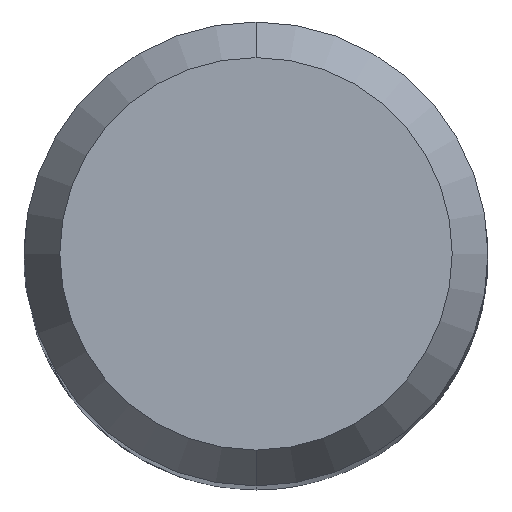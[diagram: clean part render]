
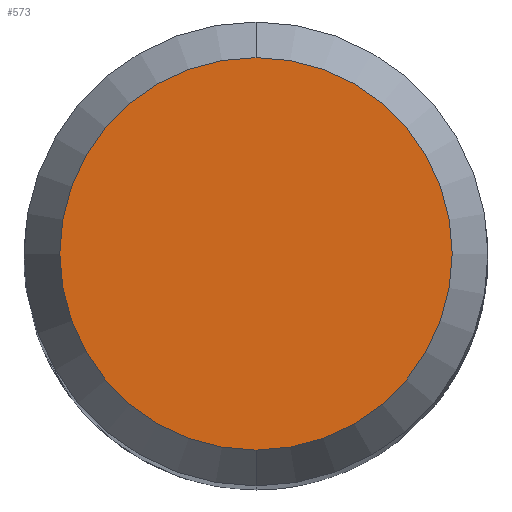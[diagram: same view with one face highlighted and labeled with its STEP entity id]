
A CAD part, top view. The second image highlights one B-rep face of the part: STEP entity #573.
In plain terms, the highlighted planar face has unit normal (0, 0, 1).
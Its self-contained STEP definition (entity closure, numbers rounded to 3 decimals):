
#573=ADVANCED_FACE('',(#1560),#1561,.T.);
#837=EDGE_CURVE('',#883,#1183,#1850,.T.);
#883=VERTEX_POINT('',#1900);
#1183=VERTEX_POINT('',#2222);
#1271=EDGE_CURVE('',#1183,#883,#2320,.T.);
#1560=FACE_OUTER_BOUND('',#2690,.T.);
#1561=PLANE('',#2691);
#1850=CIRCLE('',#4114,2.538);
#1900=CARTESIAN_POINT('',(0.0,2.538,0.0));
#2222=CARTESIAN_POINT('',(0.,-2.538,0.0));
#2320=CIRCLE('',#6191,2.538);
#2690=EDGE_LOOP('',(#7112,#7113));
#2691=AXIS2_PLACEMENT_3D('',#7114,#7115,#7116);
#4114=AXIS2_PLACEMENT_3D('',#7458,#7459,#7460);
#6191=AXIS2_PLACEMENT_3D('',#7981,#7982,#7983);
#7112=ORIENTED_EDGE('',*,*,#837,.F.);
#7113=ORIENTED_EDGE('',*,*,#1271,.F.);
#7114=CARTESIAN_POINT('',(0.0,1.269,0.0));
#7115=DIRECTION('',(-0.0,0.0,1.0));
#7116=DIRECTION('',(0.0,-1.0,0.0));
#7458=CARTESIAN_POINT('',(0.0,0.0,0.0));
#7459=DIRECTION('',(0.0,0.0,-1.0));
#7460=DIRECTION('',(0.0,1.0,0.0));
#7981=CARTESIAN_POINT('',(0.0,0.0,0.0));
#7982=DIRECTION('',(0.0,0.0,-1.0));
#7983=DIRECTION('',(0.0,1.0,0.0));
